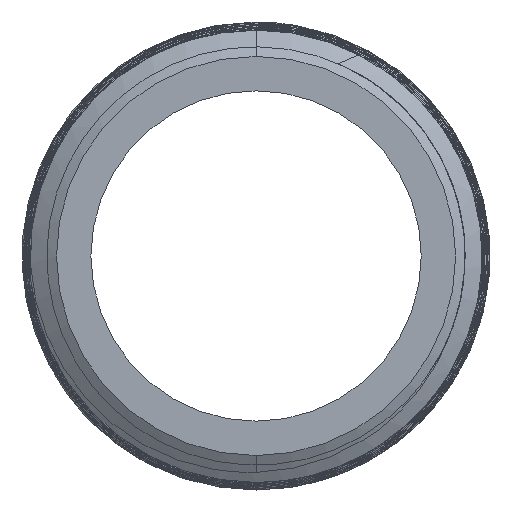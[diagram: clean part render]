
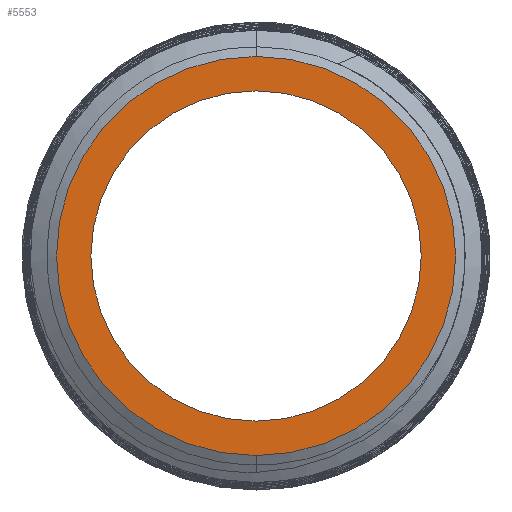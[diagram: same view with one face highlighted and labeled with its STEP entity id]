
A CAD part, left-side view. The second image highlights one B-rep face of the part: STEP entity #5553.
In plain terms, the highlighted planar face has unit normal (-1, 0, 0).
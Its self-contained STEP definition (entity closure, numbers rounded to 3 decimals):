
#195 = FACE_OUTER_BOUND ( 'NONE', #3606, .T. ) ;
#299 = CIRCLE ( 'NONE', #565, 3.6 ) ;
#317 = CARTESIAN_POINT ( 'NONE',  ( -100., 3.6, 0. ) ) ;
#479 = VERTEX_POINT ( 'NONE', #5142 ) ;
#565 = AXIS2_PLACEMENT_3D ( 'NONE', #1506, #1969, #4592 ) ;
#714 = DIRECTION ( 'NONE',  ( 0., 0., -1. ) ) ;
#724 = CARTESIAN_POINT ( 'NONE',  ( -100., 0., 0. ) ) ;
#996 = CARTESIAN_POINT ( 'NONE',  ( -100., 0., 3.6 ) ) ;
#1012 = ORIENTED_EDGE ( 'NONE', *, *, #2772, .T. ) ;
#1312 = DIRECTION ( 'NONE',  ( 0., 0., 1. ) ) ;
#1506 = CARTESIAN_POINT ( 'NONE',  ( -100., 0., 0. ) ) ;
#1654 = EDGE_CURVE ( 'NONE', #4725, #479, #5446, .T. ) ;
#1753 = ORIENTED_EDGE ( 'NONE', *, *, #4621, .T. ) ;
#1848 = CIRCLE ( 'NONE', #2578, 4.35 ) ;
#1965 = CARTESIAN_POINT ( 'NONE',  ( -100., 0., -4.35 ) ) ;
#1969 = DIRECTION ( 'NONE',  ( -1., 0., 0. ) ) ;
#2030 = AXIS2_PLACEMENT_3D ( 'NONE', #3002, #3032, #2172 ) ;
#2082 = EDGE_LOOP ( 'NONE', ( #5306, #3907 ) ) ;
#2172 = DIRECTION ( 'NONE',  ( 0., 0., 1. ) ) ;
#2225 = VERTEX_POINT ( 'NONE', #4802 ) ;
#2467 = DIRECTION ( 'NONE',  ( -1., 0., 0. ) ) ;
#2578 = AXIS2_PLACEMENT_3D ( 'NONE', #3483, #4237, #3874 ) ;
#2772 = EDGE_CURVE ( 'NONE', #2225, #2938, #1848, .T. ) ;
#2852 = CIRCLE ( 'NONE', #2030, 4.35 ) ;
#2938 = VERTEX_POINT ( 'NONE', #1965 ) ;
#3002 = CARTESIAN_POINT ( 'NONE',  ( -100., 0., 0. ) ) ;
#3032 = DIRECTION ( 'NONE',  ( -1., 0., 0. ) ) ;
#3035 = AXIS2_PLACEMENT_3D ( 'NONE', #724, #2467, #1312 ) ;
#3483 = CARTESIAN_POINT ( 'NONE',  ( -100., 0., 0. ) ) ;
#3606 = EDGE_LOOP ( 'NONE', ( #1753, #1012 ) ) ;
#3874 = DIRECTION ( 'NONE',  ( 0., 0., 1. ) ) ;
#3907 = ORIENTED_EDGE ( 'NONE', *, *, #4764, .F. ) ;
#4080 = FACE_BOUND ( 'NONE', #2082, .T. ) ;
#4237 = DIRECTION ( 'NONE',  ( -1., 0., 0. ) ) ;
#4530 = PLANE ( 'NONE',  #5447 ) ;
#4592 = DIRECTION ( 'NONE',  ( 0., 0., 1. ) ) ;
#4621 = EDGE_CURVE ( 'NONE', #2938, #2225, #2852, .T. ) ;
#4725 = VERTEX_POINT ( 'NONE', #996 ) ;
#4764 = EDGE_CURVE ( 'NONE', #479, #4725, #299, .T. ) ;
#4802 = CARTESIAN_POINT ( 'NONE',  ( -100., 0., 4.35 ) ) ;
#5142 = CARTESIAN_POINT ( 'NONE',  ( -100., 0., -3.6 ) ) ;
#5306 = ORIENTED_EDGE ( 'NONE', *, *, #1654, .F. ) ;
#5446 = CIRCLE ( 'NONE', #3035, 3.6 ) ;
#5447 = AXIS2_PLACEMENT_3D ( 'NONE', #317, #5549, #714 ) ;
#5549 = DIRECTION ( 'NONE',  ( 1., 0., 0. ) ) ;
#5553 = ADVANCED_FACE ( 'NONE', ( #4080, #195 ), #4530, .F. ) ;
